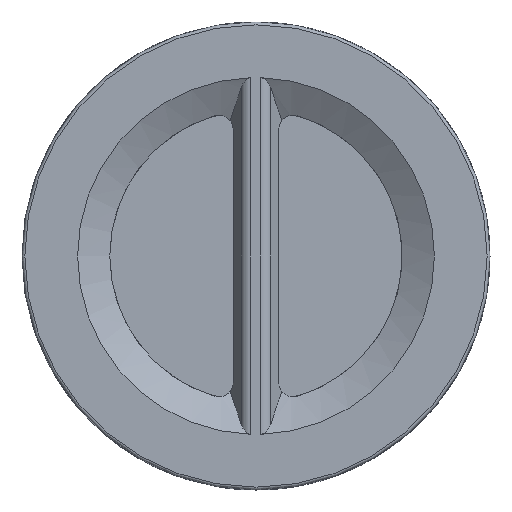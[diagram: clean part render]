
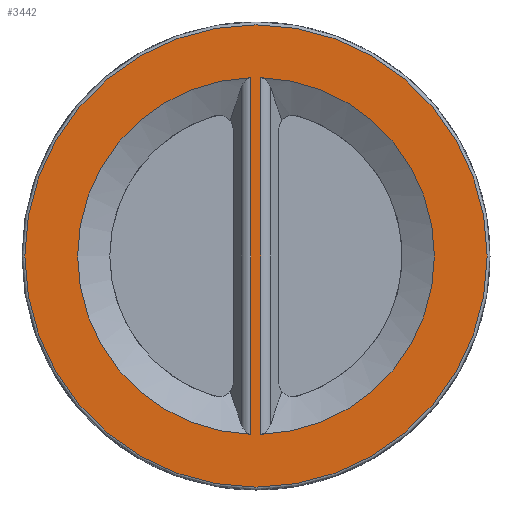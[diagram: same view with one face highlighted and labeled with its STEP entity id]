
A CAD part, front view. The second image highlights one B-rep face of the part: STEP entity #3442.
In plain terms, the highlighted planar face has unit normal (0, -1, 0).
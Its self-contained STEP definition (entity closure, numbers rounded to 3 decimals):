
#21=PLANE('',#3769);
#200=FACE_BOUND('',#651,.T.);
#201=FACE_BOUND('',#652,.T.);
#229=CIRCLE('',#3655,162.);
#250=CIRCLE('',#3682,125.);
#303=CIRCLE('',#3766,125.);
#304=CIRCLE('',#3770,125.);
#430=FACE_OUTER_BOUND('',#650,.T.);
#650=EDGE_LOOP('',(#2583));
#651=EDGE_LOOP('',(#2584,#2585,#2586,#2587));
#652=EDGE_LOOP('',(#2588,#2589,#2590,#2591));
#904=LINE('',#7046,#1160);
#905=LINE('',#7047,#1161);
#906=LINE('',#7048,#1162);
#907=LINE('',#7052,#1163);
#908=LINE('',#7053,#1164);
#1160=VECTOR('',#4319,1000.);
#1161=VECTOR('',#4320,10.);
#1162=VECTOR('',#4321,10.);
#1163=VECTOR('',#4324,10.);
#1164=VECTOR('',#4325,1000.);
#1461=VERTEX_POINT('',#5967);
#1494=VERTEX_POINT('',#6105);
#1495=VERTEX_POINT('',#6120);
#1632=VERTEX_POINT('',#6989);
#1633=VERTEX_POINT('',#7004);
#1636=VERTEX_POINT('',#7044);
#1637=VERTEX_POINT('',#7045);
#1638=VERTEX_POINT('',#7049);
#1639=VERTEX_POINT('',#7051);
#1818=EDGE_CURVE('',#1461,#1461,#229,.T.);
#1856=EDGE_CURVE('',#1494,#1495,#250,.T.);
#2009=EDGE_CURVE('',#1632,#1633,#303,.T.);
#2014=EDGE_CURVE('',#1636,#1637,#904,.T.);
#2015=EDGE_CURVE('',#1637,#1495,#905,.T.);
#2016=EDGE_CURVE('',#1636,#1494,#906,.T.);
#2017=EDGE_CURVE('',#1633,#1638,#304,.T.);
#2018=EDGE_CURVE('',#1632,#1639,#907,.T.);
#2019=EDGE_CURVE('',#1638,#1639,#908,.T.);
#2583=ORIENTED_EDGE('',*,*,#1818,.T.);
#2584=ORIENTED_EDGE('',*,*,#2014,.T.);
#2585=ORIENTED_EDGE('',*,*,#2015,.T.);
#2586=ORIENTED_EDGE('',*,*,#1856,.F.);
#2587=ORIENTED_EDGE('',*,*,#2016,.F.);
#2588=ORIENTED_EDGE('',*,*,#2017,.F.);
#2589=ORIENTED_EDGE('',*,*,#2009,.F.);
#2590=ORIENTED_EDGE('',*,*,#2018,.T.);
#2591=ORIENTED_EDGE('',*,*,#2019,.F.);
#3442=ADVANCED_FACE('',(#430,#200,#201),#21,.F.);
#3655=AXIS2_PLACEMENT_3D('',#5969,#4033,#4034);
#3682=AXIS2_PLACEMENT_3D('',#6121,#4097,#4098);
#3766=AXIS2_PLACEMENT_3D('',#7005,#4311,#4312);
#3769=AXIS2_PLACEMENT_3D('',#7043,#4317,#4318);
#3770=AXIS2_PLACEMENT_3D('',#7050,#4322,#4323);
#4033=DIRECTION('center_axis',(0.,-1.,0.));
#4034=DIRECTION('ref_axis',(-1.,0.,0.));
#4097=DIRECTION('center_axis',(0.,-1.,0.));
#4098=DIRECTION('ref_axis',(1.,0.,0.));
#4311=DIRECTION('center_axis',(0.,-1.,0.));
#4312=DIRECTION('ref_axis',(1.,0.,0.));
#4317=DIRECTION('center_axis',(0.,1.,0.));
#4318=DIRECTION('ref_axis',(-1.,0.,0.));
#4319=DIRECTION('',(0.,0.,1.));
#4320=DIRECTION('',(1.,0.,-0.028));
#4321=DIRECTION('',(1.,0.001,0.03));
#4322=DIRECTION('center_axis',(0.,-1.,0.));
#4323=DIRECTION('ref_axis',(1.,0.,0.));
#4324=DIRECTION('',(1.,-0.001,0.03));
#4325=DIRECTION('',(0.,0.,1.));
#5967=CARTESIAN_POINT('',(162.038,-114.011,0.));
#5969=CARTESIAN_POINT('Origin',(0.038,-114.011,0.));
#6105=CARTESIAN_POINT('',(3.533,-114.011,-124.951));
#6120=CARTESIAN_POINT('',(3.533,-114.011,124.951));
#6121=CARTESIAN_POINT('Origin',(0.038,-114.011,0.));
#6989=CARTESIAN_POINT('',(-3.533,-114.011,124.949));
#7004=CARTESIAN_POINT('',(-3.533,-114.011,-124.949));
#7005=CARTESIAN_POINT('Origin',(0.038,-114.011,0.));
#7043=CARTESIAN_POINT('Origin',(0.,-114.011,
0.));
#7044=CARTESIAN_POINT('',(3.53,-114.011,-124.951));
#7045=CARTESIAN_POINT('',(3.53,-114.011,124.951));
#7046=CARTESIAN_POINT('',(3.53,-114.011,-124.951));
#7047=CARTESIAN_POINT('',(3.53,-114.011,124.951));
#7048=CARTESIAN_POINT('',(3.53,-114.011,-124.951));
#7049=CARTESIAN_POINT('',(-3.53,-114.011,-124.949));
#7050=CARTESIAN_POINT('Origin',(0.038,-114.011,0.));
#7051=CARTESIAN_POINT('',(-3.53,-114.011,124.949));
#7052=CARTESIAN_POINT('',(-3.533,-114.011,124.949));
#7053=CARTESIAN_POINT('',(-3.53,-114.011,-124.949));
